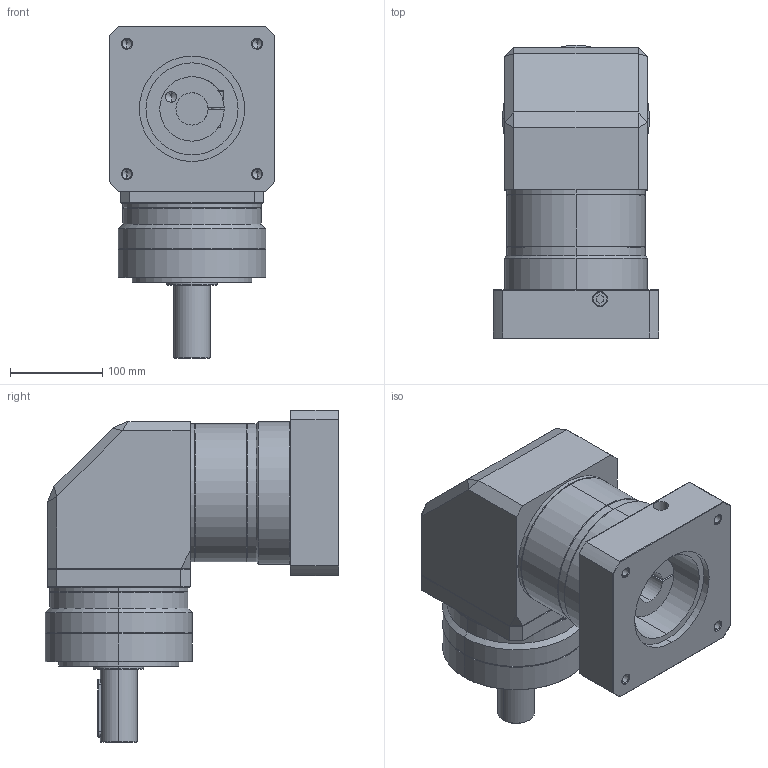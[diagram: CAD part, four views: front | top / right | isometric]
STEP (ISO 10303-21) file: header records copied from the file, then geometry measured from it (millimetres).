
FILE_DESCRIPTION (( 'STEP AP214' ), '1' );
FILE_NAME ('GPESR160.STEP', '2019-05-16T12:34:13', ( '个人用户' ), ( '微软中国' ), 'SwSTEP 2.0', 'SolidWorks 2017', '' );
FILE_SCHEMA (( 'AUTOMOTIVE_DESIGN' ));
Length unit declared in the file: millimetre
Products named in the file (1): GPESR160
Bounding box: 180 x 319 x 360.5 mm (x, y, z)
Volume: 8536009.9 mm3; surface area: 382457.1 mm2
Topology: 1 solids, 1 shells, 245 faces, 547 edges, 308 vertices
Faces by surface type: plane 98, cylinder 70, cone 67, torus 10
Entity records: 7009 total; most frequent: CARTESIAN_POINT 1382, DIRECTION 1191, ORIENTED_EDGE 1054, EDGE_CURVE 527, AXIS2_PLACEMENT_3D 443, VERTEX_POINT 308, LINE 305, VECTOR 305
